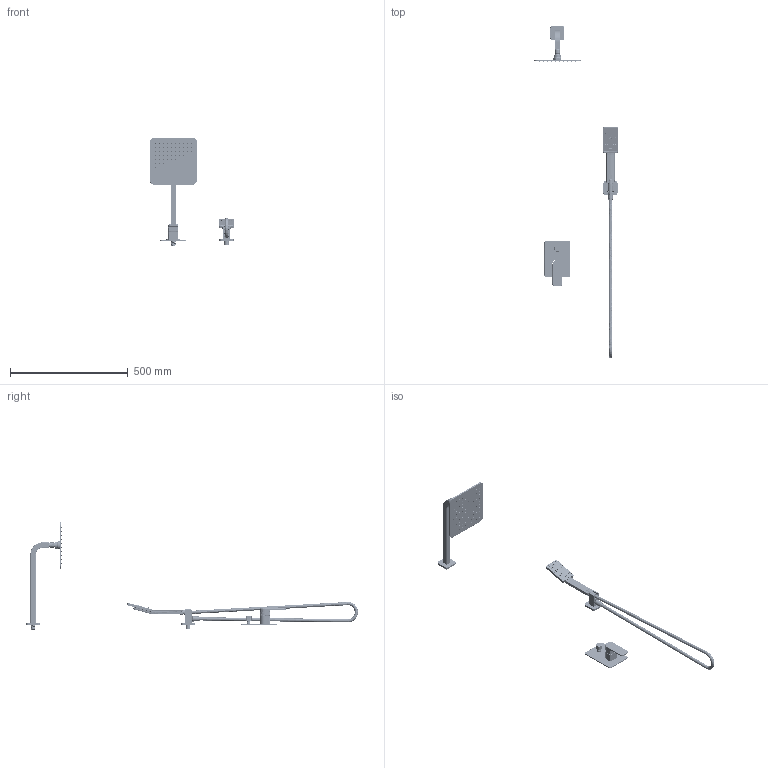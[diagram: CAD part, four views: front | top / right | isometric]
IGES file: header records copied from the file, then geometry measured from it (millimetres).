
Global section: file name: 8262cc6e-7422-41d1-a9e3-1322c1a0a57c; native system: unknown; preprocessor: unknown; author: unknown; organization: unknown; date: 20191128.080722; units: millimetre
Bounding box: 357.85 x 1407.41 x 461.25 mm (x, y, z)
Volume: 768191 mm3; surface area: 617302.1 mm2
Topology: 78 solids, 78 shells, 8708 faces, 46094 edges, 39706 vertices
Faces by surface type: bspline 7238, revolution 1470
